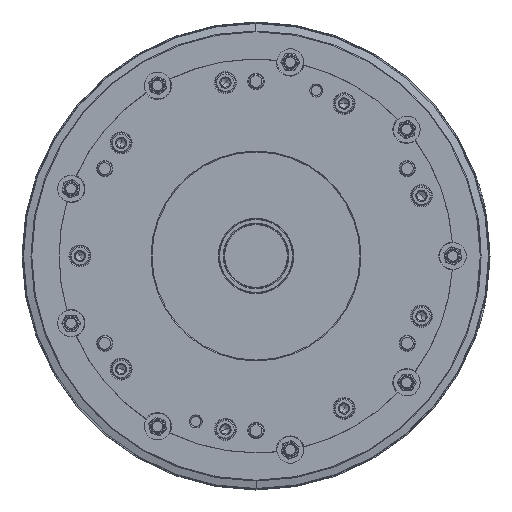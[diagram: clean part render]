
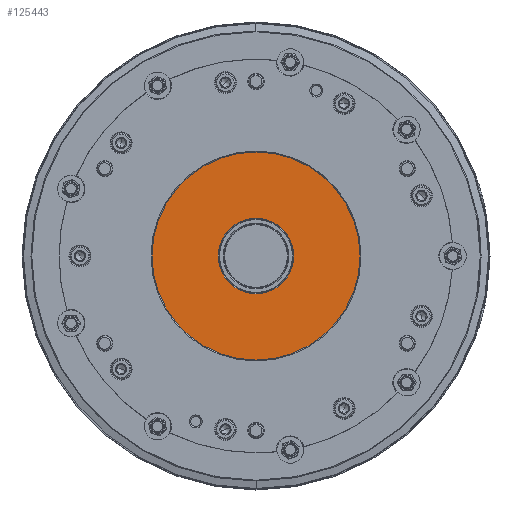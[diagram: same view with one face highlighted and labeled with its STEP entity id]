
A CAD part, left-side view. The second image highlights one B-rep face of the part: STEP entity #125443.
In plain terms, the highlighted planar face has unit normal (-1, 0, 0).
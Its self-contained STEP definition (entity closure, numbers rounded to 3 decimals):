
#437 = CIRCLE ( 'NONE', #23879, 70. ) ;
#3848 = CIRCLE ( 'NONE', #85712, 25.4 ) ;
#4809 = DIRECTION ( 'NONE',  ( 0., 0., -1. ) ) ;
#6269 = CARTESIAN_POINT ( 'NONE',  ( -112., 0., 0. ) ) ;
#18310 = DIRECTION ( 'NONE',  ( 1., 0., 0. ) ) ;
#20368 = CARTESIAN_POINT ( 'NONE',  ( -112., 0., 0. ) ) ;
#20805 = EDGE_CURVE ( 'NONE', #110473, #47758, #3848, .T. ) ;
#21862 = DIRECTION ( 'NONE',  ( -1., 0., 0. ) ) ;
#23382 = AXIS2_PLACEMENT_3D ( 'NONE', #68103, #112763, #65972 ) ;
#23879 = AXIS2_PLACEMENT_3D ( 'NONE', #20368, #41656, #31382 ) ;
#24873 = CIRCLE ( 'NONE', #85588, 25.4 ) ;
#31382 = DIRECTION ( 'NONE',  ( 0., 0., -1. ) ) ;
#32132 = FACE_BOUND ( 'NONE', #112207, .T. ) ;
#39591 = DIRECTION ( 'NONE',  ( 0., 0., -1. ) ) ;
#41656 = DIRECTION ( 'NONE',  ( 1., 0., 0. ) ) ;
#43841 = CARTESIAN_POINT ( 'NONE',  ( -112., 25.4, 0. ) ) ;
#44111 = ORIENTED_EDGE ( 'NONE', *, *, #137252, .F. ) ;
#47758 = VERTEX_POINT ( 'NONE', #139852 ) ;
#54445 = CARTESIAN_POINT ( 'NONE',  ( -112., 0., 70. ) ) ;
#65140 = ORIENTED_EDGE ( 'NONE', *, *, #97012, .F. ) ;
#65972 = DIRECTION ( 'NONE',  ( 0., 0., -1. ) ) ;
#68103 = CARTESIAN_POINT ( 'NONE',  ( -112., 0., 0. ) ) ;
#70122 = CARTESIAN_POINT ( 'NONE',  ( -112., 0., -25.4 ) ) ;
#73820 = EDGE_LOOP ( 'NONE', ( #44111, #65140 ) ) ;
#76112 = CARTESIAN_POINT ( 'NONE',  ( -112., 0., 0. ) ) ;
#81449 = VERTEX_POINT ( 'NONE', #54445 ) ;
#85588 = AXIS2_PLACEMENT_3D ( 'NONE', #76112, #18310, #39591 ) ;
#85712 = AXIS2_PLACEMENT_3D ( 'NONE', #6269, #93410, #4809 ) ;
#93410 = DIRECTION ( 'NONE',  ( 1., 0., 0. ) ) ;
#97012 = EDGE_CURVE ( 'NONE', #81449, #127331, #144899, .T. ) ;
#107509 = ORIENTED_EDGE ( 'NONE', *, *, #20805, .T. ) ;
#110473 = VERTEX_POINT ( 'NONE', #70122 ) ;
#111291 = EDGE_CURVE ( 'NONE', #47758, #110473, #24873, .T. ) ;
#112207 = EDGE_LOOP ( 'NONE', ( #118823, #107509 ) ) ;
#112763 = DIRECTION ( 'NONE',  ( 1., 0., 0. ) ) ;
#118823 = ORIENTED_EDGE ( 'NONE', *, *, #111291, .T. ) ;
#120695 = CARTESIAN_POINT ( 'NONE',  ( -112., 0., -70. ) ) ;
#122162 = PLANE ( 'NONE',  #136863 ) ;
#125443 = ADVANCED_FACE ( 'NONE', ( #32132, #131703 ), #122162, .T. ) ;
#127331 = VERTEX_POINT ( 'NONE', #120695 ) ;
#130967 = DIRECTION ( 'NONE',  ( 0., 0., 1. ) ) ;
#131703 = FACE_OUTER_BOUND ( 'NONE', #73820, .T. ) ;
#136863 = AXIS2_PLACEMENT_3D ( 'NONE', #43841, #21862, #130967 ) ;
#137252 = EDGE_CURVE ( 'NONE', #127331, #81449, #437, .T. ) ;
#139852 = CARTESIAN_POINT ( 'NONE',  ( -112., 0., 25.4 ) ) ;
#144899 = CIRCLE ( 'NONE', #23382, 70. ) ;
